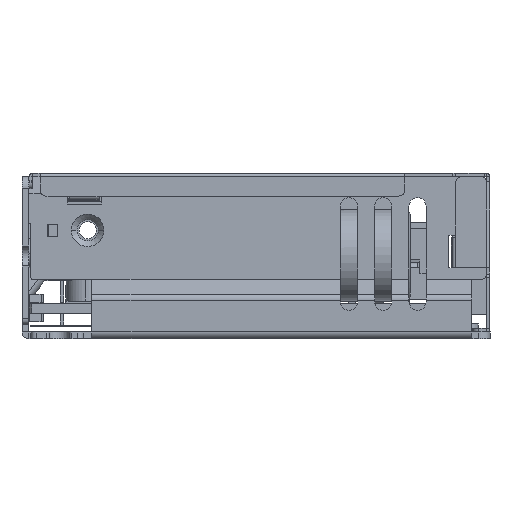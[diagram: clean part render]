
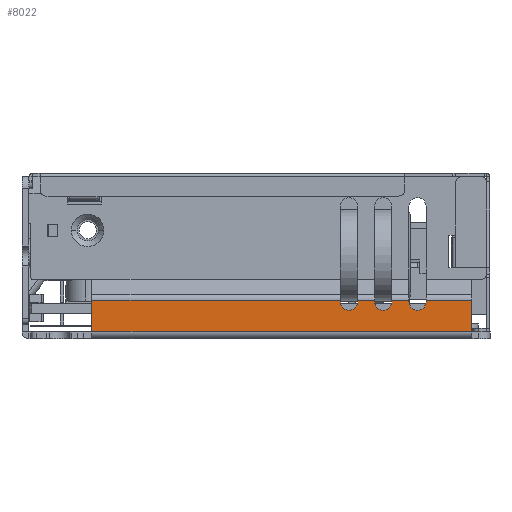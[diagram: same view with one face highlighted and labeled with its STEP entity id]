
A CAD part, left-side view. The second image highlights one B-rep face of the part: STEP entity #8022.
In plain terms, the highlighted planar face has unit normal (-1, 0, 0).
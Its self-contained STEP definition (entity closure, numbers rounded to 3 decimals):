
#1196=DIRECTION('',(0.,1.,0.));
#1197=VECTOR('',#1196,8.);
#1198=CARTESIAN_POINT('',(-49.5,-37.8,6.758));
#1199=LINE('',#1198,#1197);
#1213=CARTESIAN_POINT('',(-49.5,-22.3,6.5));
#1214=DIRECTION('',(-1.,0.,0.));
#1215=DIRECTION('',(0.,1.,0.));
#1216=AXIS2_PLACEMENT_3D('',#1213,#1214,#1215);
#1218=DIRECTION('',(0.,0.,1.));
#1219=VECTOR('',#1218,0.258);
#1220=CARTESIAN_POINT('',(-49.5,-23.8,6.5));
#1221=LINE('',#1220,#1219);
#1222=CARTESIAN_POINT('',(-49.5,-28.3,6.5));
#1223=DIRECTION('',(-1.,0.,0.));
#1224=DIRECTION('',(0.,1.,0.));
#1225=AXIS2_PLACEMENT_3D('',#1222,#1223,#1224);
#1227=DIRECTION('',(0.,0.,1.));
#1228=VECTOR('',#1227,0.258);
#1229=CARTESIAN_POINT('',(-49.5,-29.8,6.5));
#1230=LINE('',#1229,#1228);
#1231=DIRECTION('',(0.,0.,-1.));
#1232=VECTOR('',#1231,5.558);
#1233=CARTESIAN_POINT('',(-49.5,-37.8,6.758));
#1234=LINE('',#1233,#1232);
#1235=CARTESIAN_POINT('',(-49.5,-16.3,6.5));
#1236=DIRECTION('',(-1.,0.,0.));
#1237=DIRECTION('',(0.,1.,0.));
#1238=AXIS2_PLACEMENT_3D('',#1235,#1236,#1237);
#1240=DIRECTION('',(0.,0.,1.));
#1241=VECTOR('',#1240,0.258);
#1242=CARTESIAN_POINT('',(-49.5,-17.8,6.5));
#1243=LINE('',#1242,#1241);
#1248=DIRECTION('',(0.,1.,0.));
#1249=VECTOR('',#1248,3.);
#1250=CARTESIAN_POINT('',(-49.5,-20.8,6.758));
#1251=LINE('',#1250,#1249);
#1523=DIRECTION('',(0.,0.,-1.));
#1524=VECTOR('',#1523,5.558);
#1525=CARTESIAN_POINT('',(-49.5,28.75,6.758));
#1526=LINE('',#1525,#1524);
#1545=DIRECTION('',(0.,-1.,0.));
#1546=VECTOR('',#1545,66.55);
#1547=CARTESIAN_POINT('',(-49.5,28.75,1.2));
#1548=LINE('',#1547,#1546);
#2118=DIRECTION('',(0.,1.,0.));
#2119=VECTOR('',#2118,43.55);
#2120=CARTESIAN_POINT('',(-49.5,-14.8,6.758));
#2121=LINE('',#2120,#2119);
#2233=DIRECTION('',(0.,0.,1.));
#2234=VECTOR('',#2233,0.258);
#2235=CARTESIAN_POINT('',(-49.5,-14.8,6.5));
#2236=LINE('',#2235,#2234);
#2622=DIRECTION('',(0.,0.,1.));
#2623=VECTOR('',#2622,0.258);
#2624=CARTESIAN_POINT('',(-49.5,-26.8,6.5));
#2625=LINE('',#2624,#2623);
#2630=DIRECTION('',(0.,1.,0.));
#2631=VECTOR('',#2630,3.);
#2632=CARTESIAN_POINT('',(-49.5,-26.8,6.758));
#2633=LINE('',#2632,#2631);
#2655=DIRECTION('',(0.,0.,1.));
#2656=VECTOR('',#2655,0.258);
#2657=CARTESIAN_POINT('',(-49.5,-20.8,6.5));
#2658=LINE('',#2657,#2656);
#5519=CARTESIAN_POINT('',(-49.5,-37.8,6.758));
#5521=VERTEX_POINT('',#5519);
#5523=CARTESIAN_POINT('',(-49.5,-37.8,1.2));
#5524=VERTEX_POINT('',#5523);
#5526=CARTESIAN_POINT('',(-49.5,-29.8,6.758));
#5528=VERTEX_POINT('',#5526);
#5533=CARTESIAN_POINT('',(-49.5,-29.8,6.5));
#5534=VERTEX_POINT('',#5533);
#5535=CARTESIAN_POINT('',(-49.5,-20.8,6.758));
#5536=CARTESIAN_POINT('',(-49.5,-17.8,6.758));
#5537=VERTEX_POINT('',#5535);
#5538=VERTEX_POINT('',#5536);
#5539=CARTESIAN_POINT('',(-49.5,-20.8,6.5));
#5540=VERTEX_POINT('',#5539);
#5541=CARTESIAN_POINT('',(-49.5,-23.8,6.5));
#5542=VERTEX_POINT('',#5541);
#5543=CARTESIAN_POINT('',(-49.5,-23.8,6.758));
#5544=VERTEX_POINT('',#5543);
#5545=CARTESIAN_POINT('',(-49.5,-26.8,6.758));
#5546=VERTEX_POINT('',#5545);
#5547=CARTESIAN_POINT('',(-49.5,-26.8,6.5));
#5548=VERTEX_POINT('',#5547);
#5549=CARTESIAN_POINT('',(-49.5,28.75,1.2));
#5550=VERTEX_POINT('',#5549);
#5551=CARTESIAN_POINT('',(-49.5,28.75,6.758));
#5552=VERTEX_POINT('',#5551);
#5553=CARTESIAN_POINT('',(-49.5,-14.8,6.758));
#5554=VERTEX_POINT('',#5553);
#5555=CARTESIAN_POINT('',(-49.5,-14.8,6.5));
#5556=VERTEX_POINT('',#5555);
#5557=CARTESIAN_POINT('',(-49.5,-17.8,6.5));
#5558=VERTEX_POINT('',#5557);
#7986=CARTESIAN_POINT('',(-49.5,12.938,0.));
#7987=DIRECTION('',(-1.,0.,0.));
#7988=DIRECTION('',(0.,-1.,0.));
#7989=AXIS2_PLACEMENT_3D('',#7986,#7987,#7988);
#7990=PLANE('',#7989);
#7992=ORIENTED_EDGE('',*,*,#7991,.F.);
#7994=ORIENTED_EDGE('',*,*,#7993,.F.);
#7996=ORIENTED_EDGE('',*,*,#7995,.T.);
#7998=ORIENTED_EDGE('',*,*,#7997,.T.);
#8000=ORIENTED_EDGE('',*,*,#7999,.F.);
#8002=ORIENTED_EDGE('',*,*,#8001,.F.);
#8004=ORIENTED_EDGE('',*,*,#8003,.T.);
#8005=ORIENTED_EDGE('',*,*,#7976,.T.);
#8006=ORIENTED_EDGE('',*,*,#7965,.F.);
#8007=ORIENTED_EDGE('',*,*,#7946,.T.);
#8009=ORIENTED_EDGE('',*,*,#8008,.F.);
#8011=ORIENTED_EDGE('',*,*,#8010,.F.);
#8013=ORIENTED_EDGE('',*,*,#8012,.F.);
#8015=ORIENTED_EDGE('',*,*,#8014,.F.);
#8017=ORIENTED_EDGE('',*,*,#8016,.T.);
#8019=ORIENTED_EDGE('',*,*,#8018,.T.);
#8020=EDGE_LOOP('',(#7992,#7994,#7996,#7998,#8000,#8002,#8004,#8005,#8006,#8007,
#8009,#8011,#8013,#8015,#8017,#8019));
#8021=FACE_OUTER_BOUND('',#8020,.F.);
#8022=ADVANCED_FACE('',(#8021),#7990,.T.);
#1217=CIRCLE('',#1216,1.5);
#1226=CIRCLE('',#1225,1.5);
#1239=CIRCLE('',#1238,1.5);
#7946=EDGE_CURVE('',#5521,#5524,#1234,.T.);
#7965=EDGE_CURVE('',#5521,#5528,#1199,.T.);
#7976=EDGE_CURVE('',#5534,#5528,#1230,.T.);
#7991=EDGE_CURVE('',#5537,#5538,#1251,.T.);
#7993=EDGE_CURVE('',#5540,#5537,#2658,.T.);
#7995=EDGE_CURVE('',#5540,#5542,#1217,.T.);
#7997=EDGE_CURVE('',#5542,#5544,#1221,.T.);
#7999=EDGE_CURVE('',#5546,#5544,#2633,.T.);
#8001=EDGE_CURVE('',#5548,#5546,#2625,.T.);
#8003=EDGE_CURVE('',#5548,#5534,#1226,.T.);
#8008=EDGE_CURVE('',#5550,#5524,#1548,.T.);
#8010=EDGE_CURVE('',#5552,#5550,#1526,.T.);
#8012=EDGE_CURVE('',#5554,#5552,#2121,.T.);
#8014=EDGE_CURVE('',#5556,#5554,#2236,.T.);
#8016=EDGE_CURVE('',#5556,#5558,#1239,.T.);
#8018=EDGE_CURVE('',#5558,#5538,#1243,.T.);
